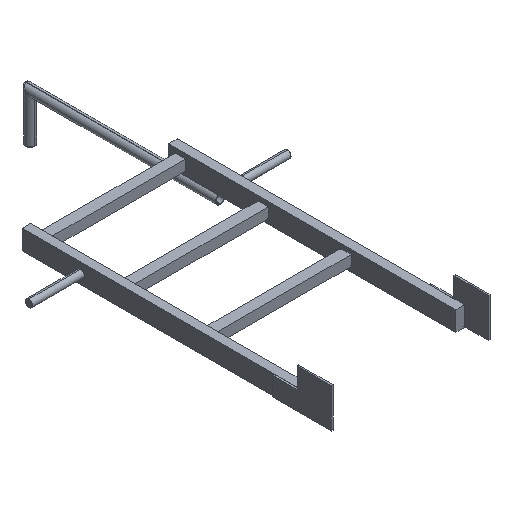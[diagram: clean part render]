
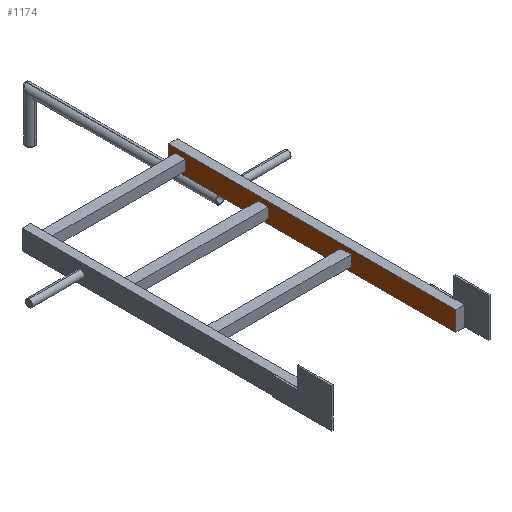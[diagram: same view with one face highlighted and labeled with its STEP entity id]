
A CAD part, isometric view. The second image highlights one B-rep face of the part: STEP entity #1174.
In plain terms, the highlighted planar face has unit normal (-1, 0, 0).
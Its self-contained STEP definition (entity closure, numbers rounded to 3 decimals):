
#189=DIRECTION('',(0.,0.,1.));
#190=VECTOR('',#189,57.);
#191=CARTESIAN_POINT('',(200.,-17.,-1.5));
#192=LINE('',#191,#190);
#239=DIRECTION('',(0.,0.,1.));
#240=VECTOR('',#239,57.);
#241=CARTESIAN_POINT('',(200.,817.,-1.5));
#242=LINE('',#241,#240);
#403=DIRECTION('',(0.,-1.,0.));
#404=VECTOR('',#403,834.);
#405=CARTESIAN_POINT('',(200.,817.,55.5));
#406=LINE('',#405,#404);
#407=DIRECTION('',(0.,-1.,0.));
#408=VECTOR('',#407,30.);
#409=CARTESIAN_POINT('',(200.,797.,42.));
#410=LINE('',#409,#408);
#411=DIRECTION('',(0.,0.,1.));
#412=VECTOR('',#411,30.);
#413=CARTESIAN_POINT('',(200.,797.,12.));
#414=LINE('',#413,#412);
#415=DIRECTION('',(0.,-1.,0.));
#416=VECTOR('',#415,30.);
#417=CARTESIAN_POINT('',(200.,797.,12.));
#418=LINE('',#417,#416);
#419=DIRECTION('',(0.,0.,1.));
#420=VECTOR('',#419,30.);
#421=CARTESIAN_POINT('',(200.,767.,12.));
#422=LINE('',#421,#420);
#423=DIRECTION('',(0.,-1.,0.));
#424=VECTOR('',#423,30.);
#425=CARTESIAN_POINT('',(200.,557.,42.));
#426=LINE('',#425,#424);
#427=DIRECTION('',(0.,0.,1.));
#428=VECTOR('',#427,30.);
#429=CARTESIAN_POINT('',(200.,557.,12.));
#430=LINE('',#429,#428);
#431=DIRECTION('',(0.,-1.,0.));
#432=VECTOR('',#431,30.);
#433=CARTESIAN_POINT('',(200.,557.,12.));
#434=LINE('',#433,#432);
#435=DIRECTION('',(0.,0.,1.));
#436=VECTOR('',#435,30.);
#437=CARTESIAN_POINT('',(200.,527.,12.));
#438=LINE('',#437,#436);
#439=DIRECTION('',(0.,-1.,0.));
#440=VECTOR('',#439,30.);
#441=CARTESIAN_POINT('',(200.,317.,42.));
#442=LINE('',#441,#440);
#443=DIRECTION('',(0.,0.,-1.));
#444=VECTOR('',#443,30.);
#445=CARTESIAN_POINT('',(200.,317.,42.));
#446=LINE('',#445,#444);
#447=DIRECTION('',(0.,-1.,0.));
#448=VECTOR('',#447,30.);
#449=CARTESIAN_POINT('',(200.,317.,12.));
#450=LINE('',#449,#448);
#451=DIRECTION('',(0.,0.,-1.));
#452=VECTOR('',#451,30.);
#453=CARTESIAN_POINT('',(200.,287.,42.));
#454=LINE('',#453,#452);
#455=DIRECTION('',(0.,-1.,0.));
#456=VECTOR('',#455,834.);
#457=CARTESIAN_POINT('',(200.,817.,-1.5));
#458=LINE('',#457,#456);
#591=CARTESIAN_POINT('',(200.,-17.,-1.5));
#592=CARTESIAN_POINT('',(200.,-17.,55.5));
#593=VERTEX_POINT('',#591);
#594=VERTEX_POINT('',#592);
#609=CARTESIAN_POINT('',(200.,817.,55.5));
#610=VERTEX_POINT('',#609);
#611=CARTESIAN_POINT('',(200.,817.,-1.5));
#612=VERTEX_POINT('',#611);
#621=CARTESIAN_POINT('',(200.,797.,42.));
#622=CARTESIAN_POINT('',(200.,767.,42.));
#623=VERTEX_POINT('',#621);
#624=VERTEX_POINT('',#622);
#625=CARTESIAN_POINT('',(200.,797.,12.));
#626=CARTESIAN_POINT('',(200.,767.,12.));
#627=VERTEX_POINT('',#625);
#628=VERTEX_POINT('',#626);
#637=CARTESIAN_POINT('',(200.,557.,42.));
#638=CARTESIAN_POINT('',(200.,527.,42.));
#639=VERTEX_POINT('',#637);
#640=VERTEX_POINT('',#638);
#641=CARTESIAN_POINT('',(200.,557.,12.));
#642=CARTESIAN_POINT('',(200.,527.,12.));
#643=VERTEX_POINT('',#641);
#644=VERTEX_POINT('',#642);
#729=CARTESIAN_POINT('',(200.,317.,42.));
#730=CARTESIAN_POINT('',(200.,287.,42.));
#731=VERTEX_POINT('',#729);
#732=VERTEX_POINT('',#730);
#733=CARTESIAN_POINT('',(200.,317.,12.));
#734=CARTESIAN_POINT('',(200.,287.,12.));
#735=VERTEX_POINT('',#733);
#736=VERTEX_POINT('',#734);
#1133=CARTESIAN_POINT('',(200.,-17.,55.5));
#1134=DIRECTION('',(-1.,0.,0.));
#1135=DIRECTION('',(0.,0.,-1.));
#1136=AXIS2_PLACEMENT_3D('',#1133,#1134,#1135);
#1137=PLANE('',#1136);
#1138=ORIENTED_EDGE('',*,*,#824,.F.);
#1140=ORIENTED_EDGE('',*,*,#1139,.F.);
#1141=ORIENTED_EDGE('',*,*,#897,.T.);
#1142=ORIENTED_EDGE('',*,*,#1124,.T.);
#1143=EDGE_LOOP('',(#1138,#1140,#1141,#1142));
#1144=FACE_OUTER_BOUND('',#1143,.F.);
#1146=ORIENTED_EDGE('',*,*,#1145,.F.);
#1148=ORIENTED_EDGE('',*,*,#1147,.F.);
#1150=ORIENTED_EDGE('',*,*,#1149,.T.);
#1152=ORIENTED_EDGE('',*,*,#1151,.T.);
#1153=EDGE_LOOP('',(#1146,#1148,#1150,#1152));
#1154=FACE_BOUND('',#1153,.F.);
#1156=ORIENTED_EDGE('',*,*,#1155,.F.);
#1158=ORIENTED_EDGE('',*,*,#1157,.F.);
#1160=ORIENTED_EDGE('',*,*,#1159,.T.);
#1161=ORIENTED_EDGE('',*,*,#746,.T.);
#1162=EDGE_LOOP('',(#1156,#1158,#1160,#1161));
#1163=FACE_BOUND('',#1162,.F.);
#1165=ORIENTED_EDGE('',*,*,#1164,.F.);
#1167=ORIENTED_EDGE('',*,*,#1166,.T.);
#1169=ORIENTED_EDGE('',*,*,#1168,.T.);
#1171=ORIENTED_EDGE('',*,*,#1170,.F.);
#1172=EDGE_LOOP('',(#1165,#1167,#1169,#1171));
#1173=FACE_BOUND('',#1172,.F.);
#746=EDGE_CURVE('',#644,#640,#438,.T.);
#824=EDGE_CURVE('',#593,#594,#192,.T.);
#897=EDGE_CURVE('',#612,#610,#242,.T.);
#1124=EDGE_CURVE('',#610,#594,#406,.T.);
#1139=EDGE_CURVE('',#612,#593,#458,.T.);
#1145=EDGE_CURVE('',#623,#624,#410,.T.);
#1147=EDGE_CURVE('',#627,#623,#414,.T.);
#1149=EDGE_CURVE('',#627,#628,#418,.T.);
#1151=EDGE_CURVE('',#628,#624,#422,.T.);
#1155=EDGE_CURVE('',#639,#640,#426,.T.);
#1157=EDGE_CURVE('',#643,#639,#430,.T.);
#1159=EDGE_CURVE('',#643,#644,#434,.T.);
#1164=EDGE_CURVE('',#731,#732,#442,.T.);
#1166=EDGE_CURVE('',#731,#735,#446,.T.);
#1168=EDGE_CURVE('',#735,#736,#450,.T.);
#1170=EDGE_CURVE('',#732,#736,#454,.T.);
#1174=ADVANCED_FACE('',(#1144,#1154,#1163,#1173),#1137,.T.);
